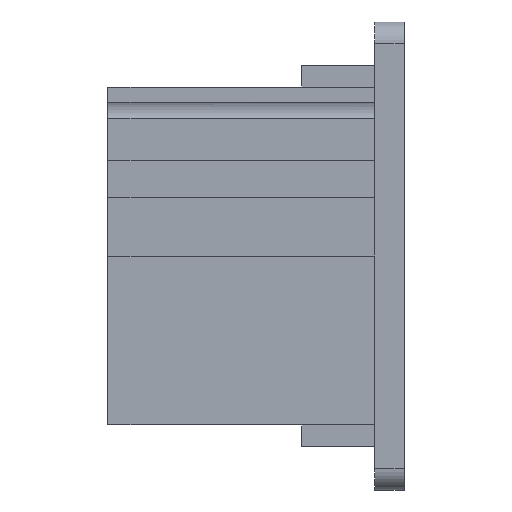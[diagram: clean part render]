
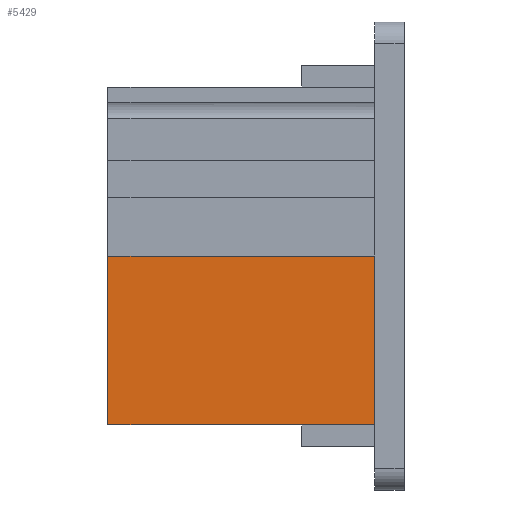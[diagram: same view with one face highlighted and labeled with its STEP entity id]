
A CAD part, left-side view. The second image highlights one B-rep face of the part: STEP entity #5429.
In plain terms, the highlighted planar face has unit normal (-1, 0, 0).
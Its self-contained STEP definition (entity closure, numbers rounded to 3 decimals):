
#100 = PLANE('',#101);
#101 = AXIS2_PLACEMENT_3D('',#102,#103,#104);
#102 = CARTESIAN_POINT('',(0.,10.,94.));
#103 = DIRECTION('',(-0.,1.,0.));
#104 = DIRECTION('',(-1.,-0.,-0.));
#2468 = VERTEX_POINT('',#2469);
#2469 = CARTESIAN_POINT('',(-16.86,10.,70.89));
#2483 = PLANE('',#2484);
#2484 = AXIS2_PLACEMENT_3D('',#2485,#2486,#2487);
#2485 = CARTESIAN_POINT('',(-16.86,6.,70.89));
#2486 = DIRECTION('',(0.,0.,1.));
#2487 = DIRECTION('',(-1.,-0.,-0.));
#2495 = EDGE_CURVE('',#2468,#2496,#2498,.T.);
#2496 = VERTEX_POINT('',#2497);
#2497 = CARTESIAN_POINT('',(-16.86,10.,95.));
#2498 = SURFACE_CURVE('',#2499,(#2503,#2510),.PCURVE_S1.);
#2499 = LINE('',#2500,#2501);
#2500 = CARTESIAN_POINT('',(-16.86,10.,105.555));
#2501 = VECTOR('',#2502,1.);
#2502 = DIRECTION('',(0.,0.,1.));
#2503 = PCURVE('',#100,#2504);
#2504 = DEFINITIONAL_REPRESENTATION('',(#2505),#2509);
#2505 = LINE('',#2506,#2507);
#2506 = CARTESIAN_POINT('',(16.86,11.555));
#2507 = VECTOR('',#2508,1.);
#2508 = DIRECTION('',(-0.,1.));
#2509 = ( GEOMETRIC_REPRESENTATION_CONTEXT(2) 
PARAMETRIC_REPRESENTATION_CONTEXT() REPRESENTATION_CONTEXT('2D SPACE',''
  ) );
#2510 = PCURVE('',#2511,#2516);
#2511 = PLANE('',#2512);
#2512 = AXIS2_PLACEMENT_3D('',#2513,#2514,#2515);
#2513 = CARTESIAN_POINT('',(-16.86,6.,117.11));
#2514 = DIRECTION('',(1.,0.,0.));
#2515 = DIRECTION('',(0.,0.,1.));
#2516 = DEFINITIONAL_REPRESENTATION('',(#2517),#2521);
#2517 = LINE('',#2518,#2519);
#2518 = CARTESIAN_POINT('',(-11.555,-4.));
#2519 = VECTOR('',#2520,1.);
#2520 = DIRECTION('',(1.,-0.));
#2521 = ( GEOMETRIC_REPRESENTATION_CONTEXT(2) 
PARAMETRIC_REPRESENTATION_CONTEXT() REPRESENTATION_CONTEXT('2D SPACE',''
  ) );
#2539 = PLANE('',#2540);
#2540 = AXIS2_PLACEMENT_3D('',#2541,#2542,#2543);
#2541 = CARTESIAN_POINT('',(-20.5,6.,95.));
#2542 = DIRECTION('',(0.,0.,1.));
#2543 = DIRECTION('',(-1.,-0.,-0.));
#4085 = PLANE('',#4086);
#4086 = AXIS2_PLACEMENT_3D('',#4087,#4088,#4089);
#4087 = CARTESIAN_POINT('',(-21.,46.5,98.));
#4088 = DIRECTION('',(-0.,1.,0.));
#4089 = DIRECTION('',(-1.,-0.,-0.));
#5337 = VERTEX_POINT('',#5338);
#5338 = CARTESIAN_POINT('',(-16.86,46.5,95.));
#5359 = EDGE_CURVE('',#2496,#5337,#5360,.T.);
#5360 = SURFACE_CURVE('',#5361,(#5365,#5372),.PCURVE_S1.);
#5361 = LINE('',#5362,#5363);
#5362 = CARTESIAN_POINT('',(-16.86,6.,95.));
#5363 = VECTOR('',#5364,1.);
#5364 = DIRECTION('',(-0.,1.,0.));
#5365 = PCURVE('',#2539,#5366);
#5366 = DEFINITIONAL_REPRESENTATION('',(#5367),#5371);
#5367 = LINE('',#5368,#5369);
#5368 = CARTESIAN_POINT('',(-3.64,0.));
#5369 = VECTOR('',#5370,1.);
#5370 = DIRECTION('',(-0.,-1.));
#5371 = ( GEOMETRIC_REPRESENTATION_CONTEXT(2) 
PARAMETRIC_REPRESENTATION_CONTEXT() REPRESENTATION_CONTEXT('2D SPACE',''
  ) );
#5372 = PCURVE('',#2511,#5373);
#5373 = DEFINITIONAL_REPRESENTATION('',(#5374),#5378);
#5374 = LINE('',#5375,#5376);
#5375 = CARTESIAN_POINT('',(-22.11,0.));
#5376 = VECTOR('',#5377,1.);
#5377 = DIRECTION('',(-0.,-1.));
#5378 = ( GEOMETRIC_REPRESENTATION_CONTEXT(2) 
PARAMETRIC_REPRESENTATION_CONTEXT() REPRESENTATION_CONTEXT('2D SPACE',''
  ) );
#5429 = ADVANCED_FACE('',(#5430),#2511,.F.);
#5430 = FACE_BOUND('',#5431,.T.);
#5431 = EDGE_LOOP('',(#5432,#5455,#5456,#5457));
#5432 = ORIENTED_EDGE('',*,*,#5433,.F.);
#5433 = EDGE_CURVE('',#2468,#5434,#5436,.T.);
#5434 = VERTEX_POINT('',#5435);
#5435 = CARTESIAN_POINT('',(-16.86,46.5,70.89));
#5436 = SURFACE_CURVE('',#5437,(#5441,#5448),.PCURVE_S1.);
#5437 = LINE('',#5438,#5439);
#5438 = CARTESIAN_POINT('',(-16.86,6.,70.89));
#5439 = VECTOR('',#5440,1.);
#5440 = DIRECTION('',(-0.,1.,0.));
#5441 = PCURVE('',#2511,#5442);
#5442 = DEFINITIONAL_REPRESENTATION('',(#5443),#5447);
#5443 = LINE('',#5444,#5445);
#5444 = CARTESIAN_POINT('',(-46.22,0.));
#5445 = VECTOR('',#5446,1.);
#5446 = DIRECTION('',(-0.,-1.));
#5447 = ( GEOMETRIC_REPRESENTATION_CONTEXT(2) 
PARAMETRIC_REPRESENTATION_CONTEXT() REPRESENTATION_CONTEXT('2D SPACE',''
  ) );
#5448 = PCURVE('',#2483,#5449);
#5449 = DEFINITIONAL_REPRESENTATION('',(#5450),#5454);
#5450 = LINE('',#5451,#5452);
#5451 = CARTESIAN_POINT('',(-0.,0.));
#5452 = VECTOR('',#5453,1.);
#5453 = DIRECTION('',(-0.,-1.));
#5454 = ( GEOMETRIC_REPRESENTATION_CONTEXT(2) 
PARAMETRIC_REPRESENTATION_CONTEXT() REPRESENTATION_CONTEXT('2D SPACE',''
  ) );
#5455 = ORIENTED_EDGE('',*,*,#2495,.T.);
#5456 = ORIENTED_EDGE('',*,*,#5359,.T.);
#5457 = ORIENTED_EDGE('',*,*,#5458,.T.);
#5458 = EDGE_CURVE('',#5337,#5434,#5459,.T.);
#5459 = SURFACE_CURVE('',#5460,(#5464,#5471),.PCURVE_S1.);
#5460 = LINE('',#5461,#5462);
#5461 = CARTESIAN_POINT('',(-16.86,46.5,117.11));
#5462 = VECTOR('',#5463,1.);
#5463 = DIRECTION('',(-0.,0.,-1.));
#5464 = PCURVE('',#2511,#5465);
#5465 = DEFINITIONAL_REPRESENTATION('',(#5466),#5470);
#5466 = LINE('',#5467,#5468);
#5467 = CARTESIAN_POINT('',(0.,-40.5));
#5468 = VECTOR('',#5469,1.);
#5469 = DIRECTION('',(-1.,0.));
#5470 = ( GEOMETRIC_REPRESENTATION_CONTEXT(2) 
PARAMETRIC_REPRESENTATION_CONTEXT() REPRESENTATION_CONTEXT('2D SPACE',''
  ) );
#5471 = PCURVE('',#4085,#5472);
#5472 = DEFINITIONAL_REPRESENTATION('',(#5473),#5477);
#5473 = LINE('',#5474,#5475);
#5474 = CARTESIAN_POINT('',(-4.14,19.11));
#5475 = VECTOR('',#5476,1.);
#5476 = DIRECTION('',(-0.,-1.));
#5477 = ( GEOMETRIC_REPRESENTATION_CONTEXT(2) 
PARAMETRIC_REPRESENTATION_CONTEXT() REPRESENTATION_CONTEXT('2D SPACE',''
  ) );
